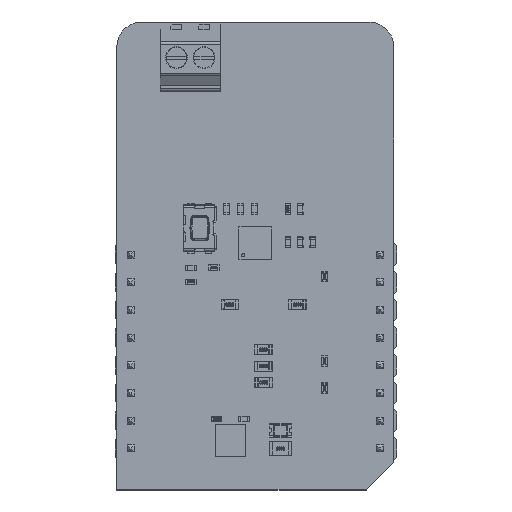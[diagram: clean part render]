
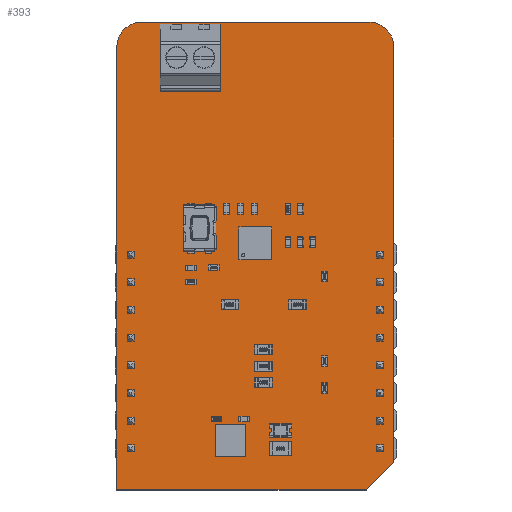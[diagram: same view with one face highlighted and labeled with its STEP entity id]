
A CAD part, top view. The second image highlights one B-rep face of the part: STEP entity #393.
In plain terms, the highlighted planar face has unit normal (0, 0, 1).
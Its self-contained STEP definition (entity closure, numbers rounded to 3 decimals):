
#164 = VERTEX_POINT('',#165);
#165 = CARTESIAN_POINT('',(-1.27,-3.81,1.59));
#171 = EDGE_CURVE('',#164,#172,#174,.T.);
#172 = VERTEX_POINT('',#173);
#173 = CARTESIAN_POINT('',(-1.27,36.83,1.59));
#174 = LINE('',#175,#176);
#175 = CARTESIAN_POINT('',(-1.27,-3.81,1.59));
#176 = VECTOR('',#177,1.);
#177 = DIRECTION('',(0.,1.,0.));
#202 = EDGE_CURVE('',#172,#203,#205,.T.);
#203 = VERTEX_POINT('',#204);
#204 = CARTESIAN_POINT('',(1.016,39.116,1.59));
#205 = CIRCLE('',#206,2.288);
#206 = AXIS2_PLACEMENT_3D('',#207,#208,#209);
#207 = CARTESIAN_POINT('',(1.018,36.828,1.59));
#208 = DIRECTION('',(0.,0.,-1.));
#209 = DIRECTION('',(-1.,0.001,0.));
#235 = EDGE_CURVE('',#203,#236,#238,.T.);
#236 = VERTEX_POINT('',#237);
#237 = CARTESIAN_POINT('',(21.844,39.116,1.59));
#238 = LINE('',#239,#240);
#239 = CARTESIAN_POINT('',(1.016,39.116,1.59));
#240 = VECTOR('',#241,1.);
#241 = DIRECTION('',(1.,0.,0.));
#266 = EDGE_CURVE('',#236,#267,#269,.T.);
#267 = VERTEX_POINT('',#268);
#268 = CARTESIAN_POINT('',(24.13,36.83,1.59));
#269 = CIRCLE('',#270,2.288);
#270 = AXIS2_PLACEMENT_3D('',#271,#272,#273);
#271 = CARTESIAN_POINT('',(21.842,36.828,1.59));
#272 = DIRECTION('',(0.,0.,-1.));
#273 = DIRECTION('',(0.001,1.,0.));
#299 = EDGE_CURVE('',#267,#300,#302,.T.);
#300 = VERTEX_POINT('',#301);
#301 = CARTESIAN_POINT('',(24.13,-1.27,1.59));
#302 = LINE('',#303,#304);
#303 = CARTESIAN_POINT('',(24.13,36.83,1.59));
#304 = VECTOR('',#305,1.);
#305 = DIRECTION('',(0.,-1.,0.));
#330 = EDGE_CURVE('',#300,#331,#333,.T.);
#331 = VERTEX_POINT('',#332);
#332 = CARTESIAN_POINT('',(21.59,-3.81,1.59));
#333 = LINE('',#334,#335);
#334 = CARTESIAN_POINT('',(24.13,-1.27,1.59));
#335 = VECTOR('',#336,1.);
#336 = DIRECTION('',(-0.707,-0.707,0.));
#361 = EDGE_CURVE('',#331,#164,#362,.T.);
#362 = LINE('',#363,#364);
#363 = CARTESIAN_POINT('',(21.59,-3.81,1.59));
#364 = VECTOR('',#365,1.);
#365 = DIRECTION('',(-1.,0.,0.));
#393 = ADVANCED_FACE('',(#394),#403,.F.);
#394 = FACE_BOUND('',#395,.F.);
#395 = EDGE_LOOP('',(#396,#397,#398,#399,#400,#401,#402));
#396 = ORIENTED_EDGE('',*,*,#171,.T.);
#397 = ORIENTED_EDGE('',*,*,#202,.T.);
#398 = ORIENTED_EDGE('',*,*,#235,.T.);
#399 = ORIENTED_EDGE('',*,*,#266,.T.);
#400 = ORIENTED_EDGE('',*,*,#299,.T.);
#401 = ORIENTED_EDGE('',*,*,#330,.T.);
#402 = ORIENTED_EDGE('',*,*,#361,.T.);
#403 = PLANE('',#404);
#404 = AXIS2_PLACEMENT_3D('',#405,#406,#407);
#405 = CARTESIAN_POINT('',(11.278,17.566,1.59));
#406 = DIRECTION('',(-0.,-0.,-1.));
#407 = DIRECTION('',(-1.,0.,0.));
